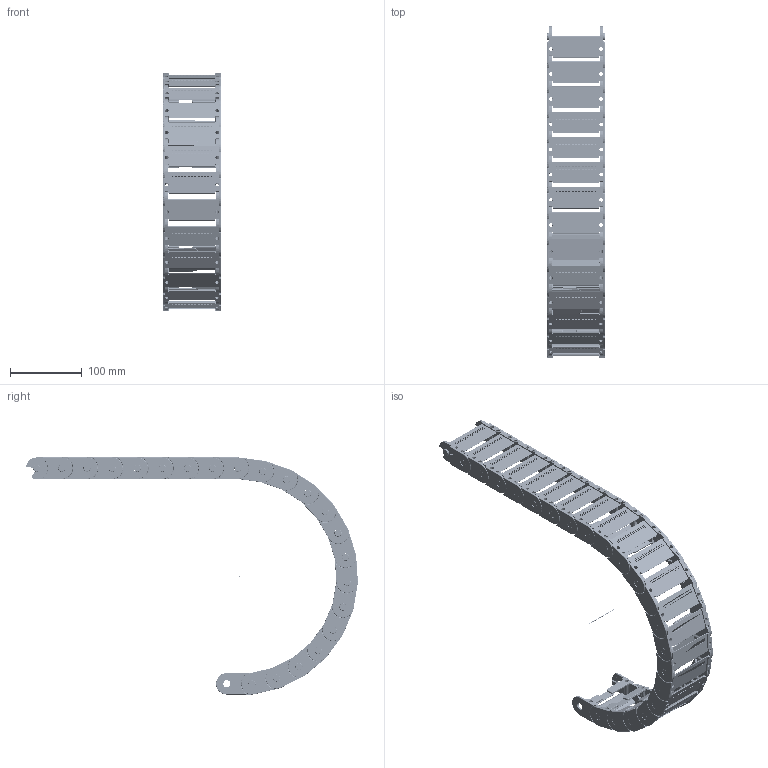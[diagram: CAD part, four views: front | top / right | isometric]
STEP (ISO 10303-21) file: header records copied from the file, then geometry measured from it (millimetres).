
FILE_DESCRIPTION((''),'2;1');
FILE_NAME('C:\Uebbing\PARAMETERKETTEN\KOLIBRI\Kol_30_080_4\Kol 30_080_4_R150.stp','2012-03-05T11:33:42',('Uebbing'),(''),'Autodesk Inventor 10','Autodesk Inventor 10','');
FILE_SCHEMA(('AUTOMOTIVE_DESIGN { 1 0 10303 214 1 1 1 1 }'));
Length unit declared in the file: millimetre
Products named in the file (3): KOLIBRI 30_080_4_PARAMETRISCH; Achse; Kol 30_080_4_Lasche
Assembly tree (23 placements, depth 2):
  KOLIBRI 30_080_4_PARAMETRISCH
    Achse
    Kol 30_080_4_Lasche  x22
Bounding box: 80 x 461.73 x 330 mm (x, y, z)
Volume: 439932.6 mm3; surface area: 354673.3 mm2
Topology: 23 solids, 23 shells, 16107 faces, 42728 edges, 27921 vertices
Faces by surface type: plane 6734, bspline 6138, cylinder 2663, torus 528, sphere 44
Full cylindrical faces by diameter (mm): 1 x1, 1.166 x22, 2.048 x22, 5.1 x22, 10 x22, 10.1 x22
Entity records: 25434 total; most frequent: CARTESIAN_POINT 7938, ORIENTED_EDGE 3850, DIRECTION 3143, EDGE_CURVE 1925, VERTEX_POINT 1266, VECTOR 1259, LINE 1259, AXIS2_PLACEMENT_3D 942
